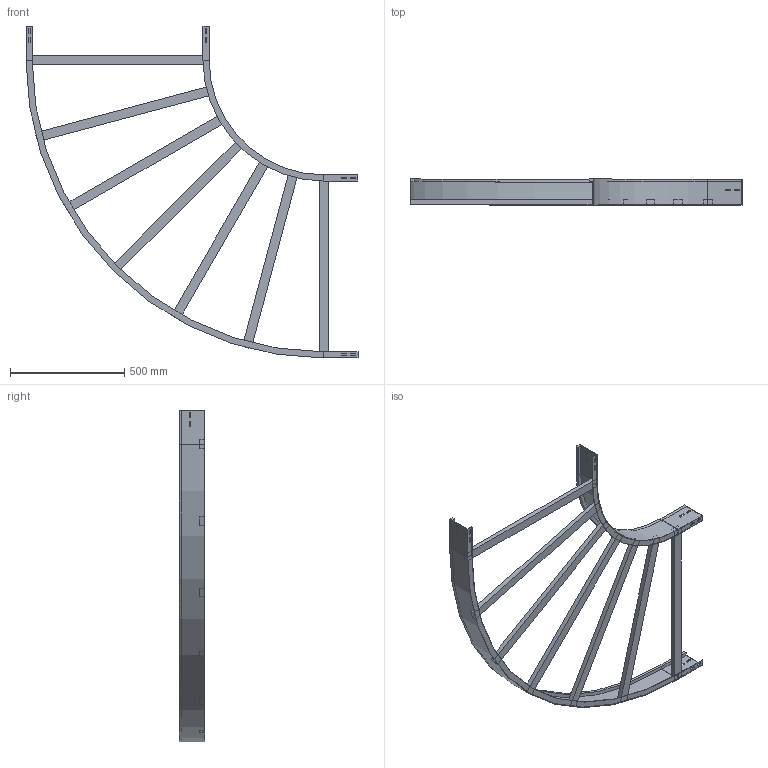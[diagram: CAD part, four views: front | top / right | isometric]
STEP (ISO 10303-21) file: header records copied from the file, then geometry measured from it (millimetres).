
FILE_DESCRIPTION (( 'STEP AP214' ), '1' );
FILE_NAME ('10B5J800.step', '2025-02-21T15:24:20', ( '' ), ( '' ), 'SwSTEP 2.0', 'SolidWorks 2023', '' );
FILE_SCHEMA (( 'AUTOMOTIVE_DESIGN' ));
Length unit declared in the file: millimetre
Products named in the file (4): A2_LONGH.ESTERNO 90°_H112.5_R500+800; A2_LONGH.INTERNO 90°_H112.5_R500; TRAVERSINO_800; 10B5J800
Assembly tree (9 placements, depth 2):
  10B5J800
    A2_LONGH.INTERNO 90°_H112.5_R500
    A2_LONGH.ESTERNO 90°_H112.5_R500+800
    TRAVERSINO_800  x7
Bounding box: 1450 x 112.5 x 1450 mm (x, y, z)
Volume: 6109003.4 mm3; surface area: 1750279.8 mm2
Topology: 9 solids, 9 shells, 158 faces, 388 edges, 248 vertices
Faces by surface type: plane 150, cylinder 8
Entity records: 3853 total; most frequent: CARTESIAN_POINT 650, ORIENTED_EDGE 632, DIRECTION 600, EDGE_CURVE 316, LINE 300, VECTOR 300, VERTEX_POINT 200, EDGE_LOOP 154
